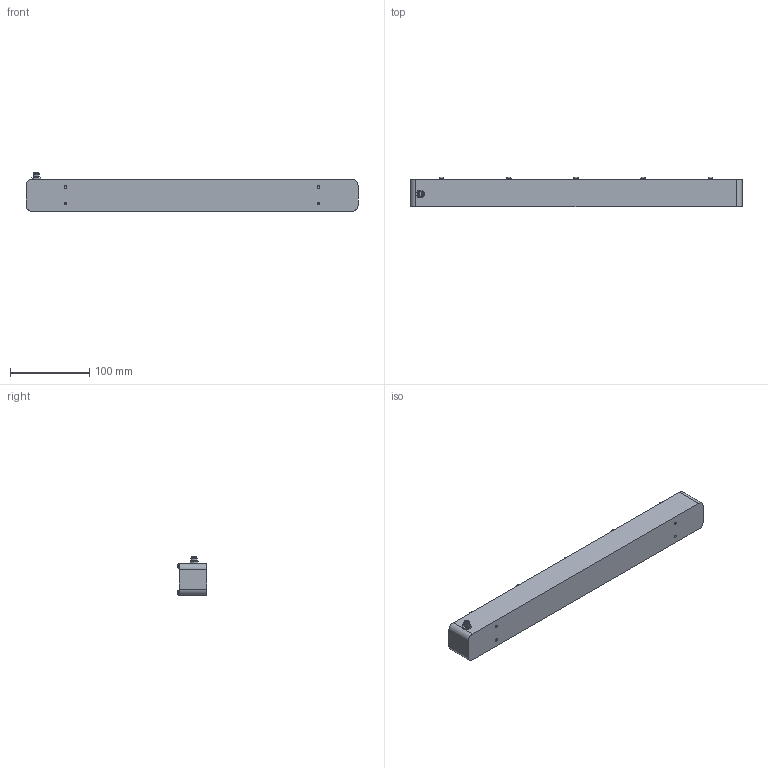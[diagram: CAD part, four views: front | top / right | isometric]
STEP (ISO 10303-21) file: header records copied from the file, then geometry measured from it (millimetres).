
FILE_DESCRIPTION (( 'STEP AP203' ), '1' );
FILE_NAME ('assembly.STEP', '2014-04-29T08:11:58', ( 'Gebruiker' ), ( 'Unattended' ), 'SwSTEP 2.0', 'SolidWorks 2013', '' );
FILE_SCHEMA (( 'CONFIG_CONTROL_DESIGN' ));
Length unit declared in the file: millimetre
Products named in the file (6): Venster; 1500334; plain washer 10673 type snl_iso_ISO 10673-2.75-S; assembly; behuizing; socket button head screw_iso_ISO 7380 - M3 x 6 --- 6N
Assembly tree (23 placements, depth 2):
  assembly
    behuizing
    Venster
    plain washer 10673 type snl_iso_ISO 10673-2.75-S  x10
    socket button head screw_iso_ISO 7380 - M3 x 6 --- 6N  x10
    1500334
Bounding box: 420 x 37.25 x 48.5 mm (x, y, z)
Volume: 333996.5 mm3; surface area: 119348.4 mm2
Topology: 23 solids, 23 shells, 546 faces, 1249 edges, 733 vertices
Faces by surface type: plane 211, cylinder 190, cone 100, torus 20, sphere 20, bspline 5
Entity records: 8225 total; most frequent: CARTESIAN_POINT 1348, DIRECTION 1344, ORIENTED_EDGE 1082, EDGE_CURVE 541, AXIS2_PLACEMENT_3D 536, VERTEX_POINT 346, EDGE_LOOP 297, LINE 272
